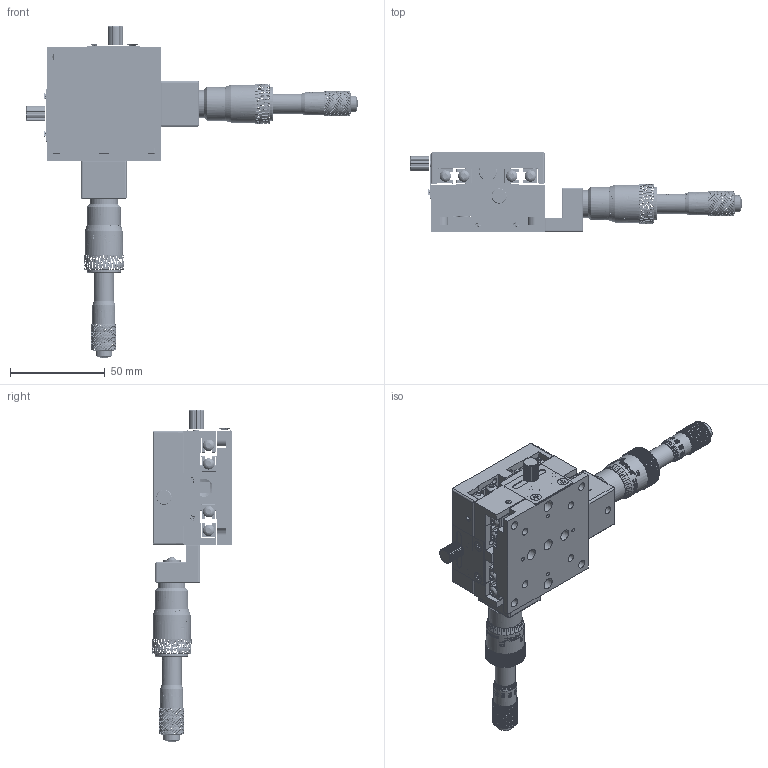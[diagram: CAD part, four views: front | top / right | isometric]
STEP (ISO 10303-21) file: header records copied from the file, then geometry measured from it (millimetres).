
FILE_DESCRIPTION (( 'STEP AP203' ), '1' );
FILE_NAME ('STCS60XY-05P.STEP', '2017-02-23T11:01:43', ( '¦K¬P' ), ( '' ), 'SwSTEP 2.0', 'SolidWorks 2012', '' );
FILE_SCHEMA (( 'CONFIG_CONTROL_DESIGN' ));
Products named in the file (1): STCS60XY-05P
Bounding box: 175 x 42.5 x 175 mm (x, y, z)
Surface area: 60745.6 mm2 (no closed solid volume)
Topology: 0 solids, 1983 shells, 8443 faces, 37716 edges, 29460 vertices
Faces by surface type: cylinder 3905, bspline 3498, plane 817, cone 188, torus 32, sphere 3
Full cylindrical faces by diameter (mm): 1.5 x2, 2 x8, 3 x13, 3.3 x10, 4 x6, 4.5 x4, 5 x2, 6 x9, 8.7 x2, 9.5 x1, 12.1 x2, 14.6 x2, 16 x1, 17.7 x2, 20 x2
Entity records: 705861 total; most frequent: CARTESIAN_POINT 510375, ORIENTED_EDGE 49759, EDGE_CURVE 37557, VERTEX_POINT 29409, DIRECTION 17365, B_SPLINE_CURVE_WITH_KNOTS 12506, EDGE_LOOP 8970, FACE_OUTER_BOUND 8525
